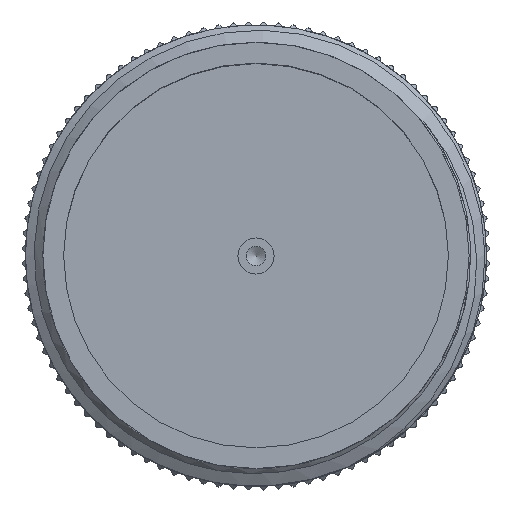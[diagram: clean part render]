
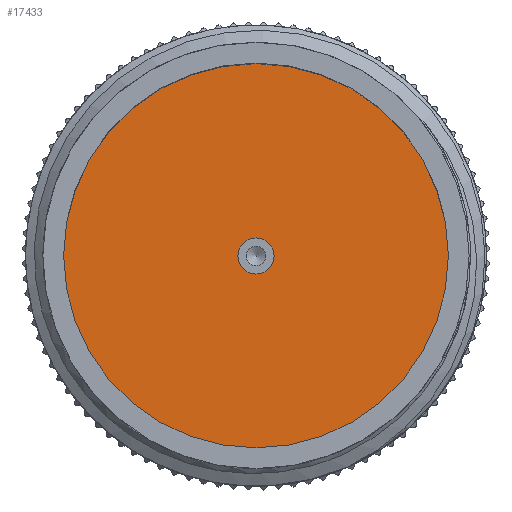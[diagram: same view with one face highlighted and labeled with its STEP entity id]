
A CAD part, top view. The second image highlights one B-rep face of the part: STEP entity #17433.
In plain terms, the highlighted planar face has unit normal (0, 0, 1).
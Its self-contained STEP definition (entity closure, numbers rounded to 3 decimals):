
#408 = PLANE ( 'NONE',  #1517 ) ;
#587 = VERTEX_POINT ( 'NONE', #1937 ) ;
#1517 = AXIS2_PLACEMENT_3D ( 'NONE', #6521, #8485, #16618 ) ;
#1703 = FACE_BOUND ( 'NONE', #17044, .T. ) ;
#1937 = CARTESIAN_POINT ( 'NONE',  ( 1.115, 0., -19.05 ) ) ;
#2186 = DIRECTION ( 'NONE',  ( 1., 0., 0. ) ) ;
#3005 = FACE_OUTER_BOUND ( 'NONE', #17152, .T. ) ;
#3905 = CARTESIAN_POINT ( 'NONE',  ( 0., 0., -19.05 ) ) ;
#3999 = ORIENTED_EDGE ( 'NONE', *, *, #25677, .T. ) ;
#6521 = CARTESIAN_POINT ( 'NONE',  ( 0., 1.974, -19.05 ) ) ;
#7633 = VERTEX_POINT ( 'NONE', #26420 ) ;
#8485 = DIRECTION ( 'NONE',  ( 0., 0., -1. ) ) ;
#10012 = DIRECTION ( 'NONE',  ( 0., 0., 1. ) ) ;
#11481 = EDGE_CURVE ( 'NONE', #587, #587, #23212, .T. ) ;
#12076 = AXIS2_PLACEMENT_3D ( 'NONE', #3905, #10012, #2186 ) ;
#14001 = CARTESIAN_POINT ( 'NONE',  ( 0., 0., -19.05 ) ) ;
#16137 = DIRECTION ( 'NONE',  ( 0., 0., 1. ) ) ;
#16618 = DIRECTION ( 'NONE',  ( -1., 0., 0. ) ) ;
#17044 = EDGE_LOOP ( 'NONE', ( #25319 ) ) ;
#17152 = EDGE_LOOP ( 'NONE', ( #3999 ) ) ;
#17433 = ADVANCED_FACE ( 'NONE', ( #3005, #1703 ), #408, .F. ) ;
#20146 = AXIS2_PLACEMENT_3D ( 'NONE', #14001, #16137, #24268 ) ;
#23041 = CIRCLE ( 'NONE', #12076, 11.905 ) ;
#23212 = CIRCLE ( 'NONE', #20146, 1.115 ) ;
#24268 = DIRECTION ( 'NONE',  ( 1., 0., 0. ) ) ;
#25319 = ORIENTED_EDGE ( 'NONE', *, *, #11481, .F. ) ;
#25677 = EDGE_CURVE ( 'NONE', #7633, #7633, #23041, .T. ) ;
#26420 = CARTESIAN_POINT ( 'NONE',  ( 11.905, 0., -19.05 ) ) ;
